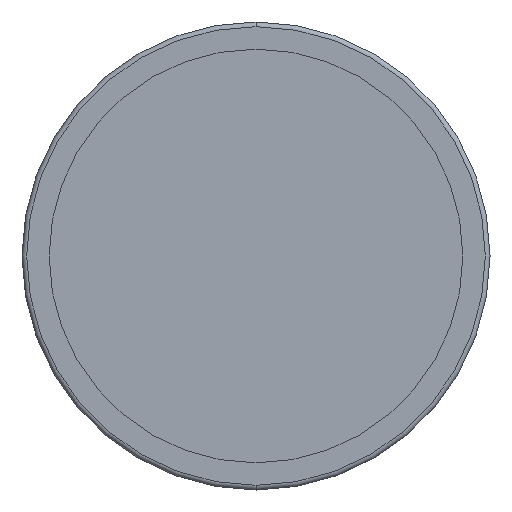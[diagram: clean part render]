
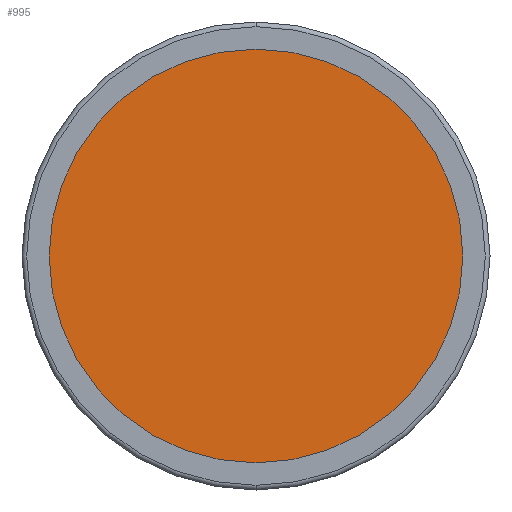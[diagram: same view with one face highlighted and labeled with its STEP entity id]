
A CAD part, front view. The second image highlights one B-rep face of the part: STEP entity #995.
In plain terms, the highlighted planar face has unit normal (0, -1, 0).
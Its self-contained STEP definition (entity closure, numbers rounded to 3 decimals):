
#78 = ORIENTED_EDGE ( 'NONE', *, *, #1276, .F. ) ;
#318 = DIRECTION ( 'NONE',  ( 0., 1., 0. ) ) ;
#463 = AXIS2_PLACEMENT_3D ( 'NONE', #1555, #318, #2966 ) ;
#470 = PLANE ( 'NONE',  #2142 ) ;
#493 = CARTESIAN_POINT ( 'NONE',  ( 0., -3., -43.75 ) ) ;
#596 = CARTESIAN_POINT ( 'NONE',  ( 0., -3., 43.75 ) ) ;
#805 = VERTEX_POINT ( 'NONE', #596 ) ;
#864 = ORIENTED_EDGE ( 'NONE', *, *, #905, .F. ) ;
#903 = DIRECTION ( 'NONE',  ( 0., -1., 0. ) ) ;
#905 = EDGE_CURVE ( 'NONE', #805, #2314, #2551, .T. ) ;
#923 = DIRECTION ( 'NONE',  ( 0., 1., 0. ) ) ;
#995 = ADVANCED_FACE ( 'NONE', ( #1617 ), #470, .T. ) ;
#1276 = EDGE_CURVE ( 'NONE', #2314, #805, #2843, .T. ) ;
#1393 = CARTESIAN_POINT ( 'NONE',  ( 0., -3., 0. ) ) ;
#1555 = CARTESIAN_POINT ( 'NONE',  ( 0., -3., 0. ) ) ;
#1617 = FACE_OUTER_BOUND ( 'NONE', #2383, .T. ) ;
#1957 = DIRECTION ( 'NONE',  ( 0., 0., 1. ) ) ;
#2142 = AXIS2_PLACEMENT_3D ( 'NONE', #2894, #903, #2150 ) ;
#2150 = DIRECTION ( 'NONE',  ( 0., 0., -1. ) ) ;
#2246 = AXIS2_PLACEMENT_3D ( 'NONE', #1393, #923, #1957 ) ;
#2314 = VERTEX_POINT ( 'NONE', #493 ) ;
#2383 = EDGE_LOOP ( 'NONE', ( #864, #78 ) ) ;
#2551 = CIRCLE ( 'NONE', #2246, 43.75 ) ;
#2843 = CIRCLE ( 'NONE', #463, 43.75 ) ;
#2894 = CARTESIAN_POINT ( 'NONE',  ( -43.75, -3., 0. ) ) ;
#2966 = DIRECTION ( 'NONE',  ( 0., 0., 1. ) ) ;
